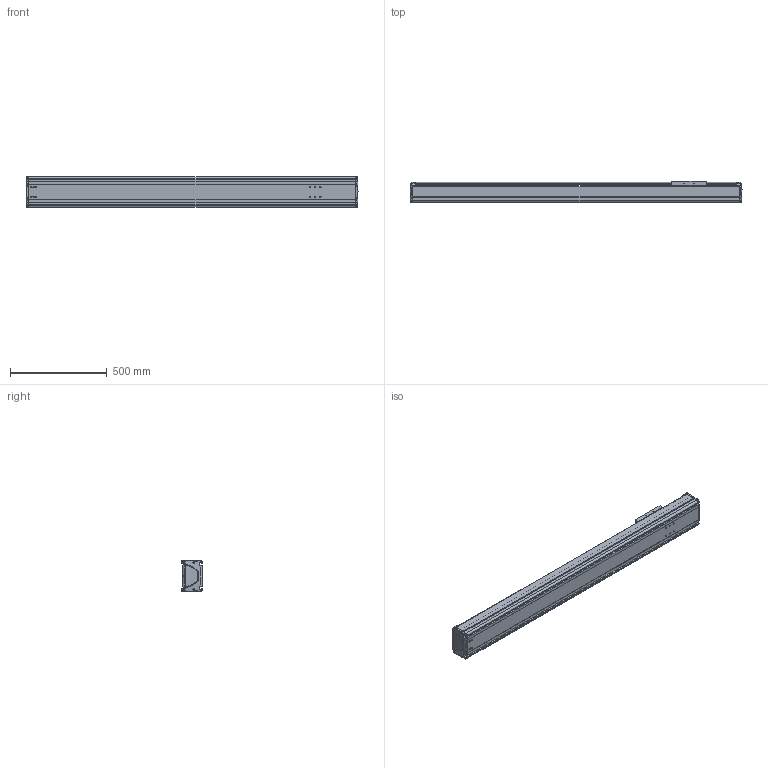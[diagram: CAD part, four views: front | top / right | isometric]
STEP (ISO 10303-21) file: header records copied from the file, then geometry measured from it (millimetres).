
FILE_DESCRIPTION((''),'2;1');
FILE_NAME('BE50G-ST-M_B-D0_IGS_PRT','2017-06-18T',(' '),(''),'PRO/ENGINEER BY PARAMETRIC TECHNOLOGY CORPORATION, 2015030','PRO/ENGINEER BY PARAMETRIC TECHNOLOGY CORPORATION, 2015030','');
FILE_SCHEMA(('CONFIG_CONTROL_DESIGN'));
Length unit declared in the file: millimetre
Products named in the file (1): BE50G-ST-M_B-D0_IGS_PRT
Bounding box: 1714.98 x 110 x 160 mm (x, y, z)
Volume: 7066015.4 mm3; surface area: 2576250.9 mm2
Topology: 3 solids, 104 shells, 1694 faces, 4530 edges, 2929 vertices
Faces by surface type: cylinder 780, plane 603, bspline 102, torus 87, cone 82, sphere 40
Entity records: 58791 total; most frequent: CARTESIAN_POINT 17000, ORIENTED_EDGE 8610, DIRECTION 8504, EDGE_CURVE 4504, AXIS2_PLACEMENT_3D 3196, VERTEX_POINT 2921, VECTOR 2112, LINE 2112
